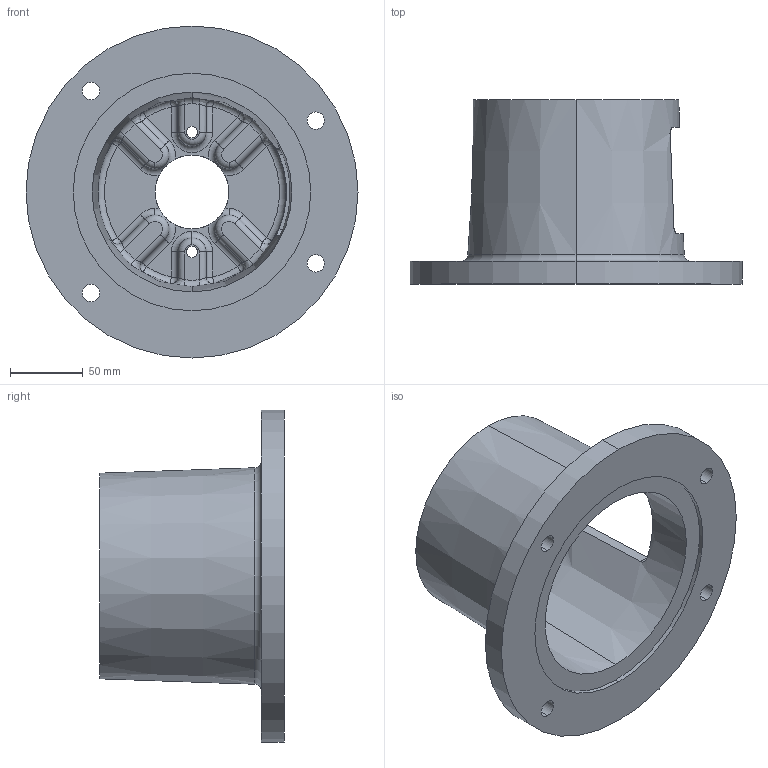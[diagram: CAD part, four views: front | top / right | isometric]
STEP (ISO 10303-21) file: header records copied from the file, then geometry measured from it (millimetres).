
FILE_DESCRIPTION (( 'STEP AP203' ), '1' );
FILE_NAME ('E644502AA.STEP', '2014-11-03T17:07:02', ( '' ), ( '' ), 'SwSTEP 2.0', 'SolidWorks 2014', '' );
FILE_SCHEMA (( 'CONFIG_CONTROL_DESIGN' ));
Length unit declared in the file: inch
Products named in the file (1): E644502AA
Bounding box: 228.6 x 127 x 228.6 mm (x, y, z)
Volume: 791359.1 mm3; surface area: 184532.2 mm2
Topology: 1 solids, 1 shells, 158 faces, 383 edges, 217 vertices
Faces by surface type: cylinder 55, torus 33, plane 30, bspline 24, sphere 12, cone 4
Entity records: 6250 total; most frequent: CARTESIAN_POINT 2589, DIRECTION 791, ORIENTED_EDGE 742, EDGE_CURVE 371, AXIS2_PLACEMENT_3D 349, VERTEX_POINT 217, CIRCLE 214, EDGE_LOOP 176
